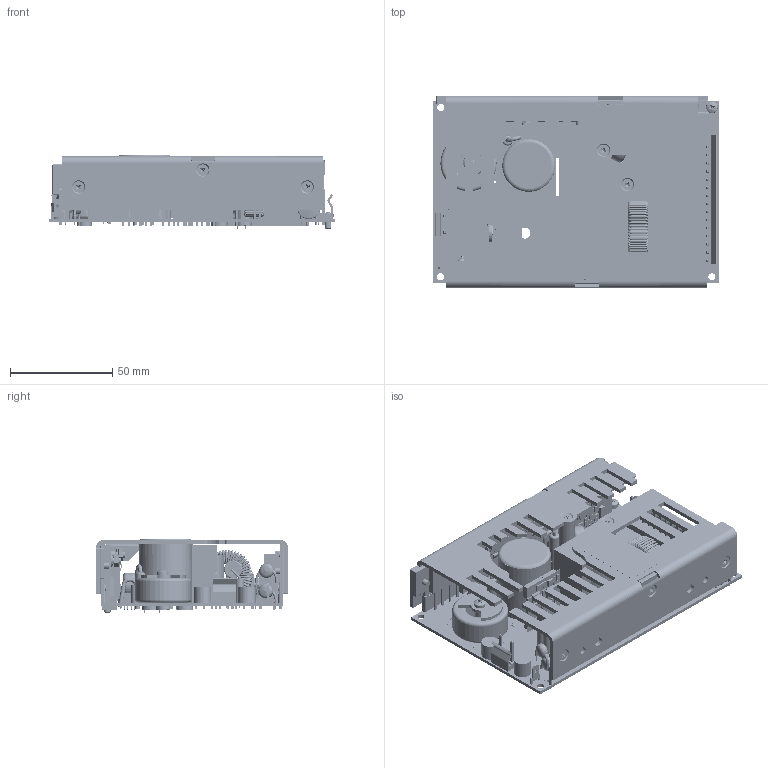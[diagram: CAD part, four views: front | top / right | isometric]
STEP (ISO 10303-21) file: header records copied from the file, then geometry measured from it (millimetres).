
FILE_DESCRIPTION (( 'STEP AP214' ), '1' );
FILE_NAME ('RCL175.STEP', '2018-10-18T16:25:21', ( '' ), ( '' ), 'SwSTEP 2.0', 'SolidWorks 2017', '' );
FILE_SCHEMA (( 'AUTOMOTIVE_DESIGN' ));
Length unit declared in the file: millimetre
Products named in the file (81): TO220_3_lead_uncut_1; L2_TOROID; SCREW-PFH(90)_M3.0x12_6 lg; L9_winding_red; HEADER-SR_2-WAY-SQ-PIN; Bridge_rect_vt_inlineGBU8K; NUT-HEX_M3.0; KoolPad_insulator; Thermistor_Disc_PTO_01_600D x 150T 250x050LS cut 112; SCREW-PFH(90)_M3.0x12_8 lg; CLIP P CL80 002; TAG MK3 LH; TOROID T2_MOUNT; T3_PINNED; L2 NOMEX WASHER; SCREW-PFH(90)_M3.0x12_10 lg; SCREW-PPH_M3.0X30_10 lg; D1; DIN 661 2.0 x 3.0 RIVET; HEATSINK_SPACER; SIL PAD FOR BR1; TO220_2_lead_cut500l_1; CAP-CER-UL1440; SECONDARY_SUBSINK; Cap_disk_450x100_ls300_cut112l; HEATSINK_CLAMP; PPS  INSULATOR; PIN_SPECIAL_9.5; TAG MK3 RH; ppb80 101-1; ppb80 102-1; SECONDARY_SUBSINK_INSERTS; T2_ PINNED; ppb80 100-1; PRIMARY_H-SINK; AL100-030; MET-FILM-S-U; L2 SCREENED ASSY; TOROID T3; SEC_H-SINK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
Assembly tree (206 placements, depth 3):
  HEADER-SR_2-WAY-SQ-PIN
  AL100-030
  SW3dPS-amp_171825_header
  RCL175
    ppb80 100-1
    ppb80 101-1
    SEC_H-SINK
    HEATSINK_CLAMP  x2
    HEATSINK_SPACER  x2
    TO220_3_lead_uncut_1
    TO220_2_lead_cut500l_1
    Cap_disk_450x100_ls300_cut112l
    TO220_3_lead_uncut_1
    TO220_3_lead_uncut_1
    TO220_3_lead_uncut_1
    TO220_3_lead_uncut_1
    TO220_3_lead_uncut_1
    TO220_3_lead_uncut_1
    TO220_3_lead_uncut_1
    TO220_3_lead_uncut_1
    Bridge_rect_vt_inlineGBU8K
    KoolPad_insulator  x2
    CLIP P CL80 002
    SCREW-PFH(90)_M3.0x12  x2
    NUT-HEX_M3.0  x3
    PRIMARY_SUBSINK_INSERTS
      PRIMARY_SUBSINK
      Pem_Nut_Flush_Metric_F-M3-1  x3
      TAG MK3 RH
      TAG MK3 LH
      DIN 661 2.0 x 3.0 RIVET  x2
    PRIMARY_H-SINK
    SECONDARY_SUBSINK_INSERTS
      SECONDARY_SUBSINK
      Pem_Nut_Flush_Metric_F-M3-1  x3
      TAG MK3 RH (MINIMISED)
      TAG MK3 LH
      DIN 661 2.0 x 3.0 RIVET  x2
    L9
      L9_TOROID_FT_TOROID
      L9_winding  x59
      L9_winding_red  x25
    T1
    CLIP INSULATOR
    CLIP SCREW INS.
    M3 SPRING WASHER  x2
    L2 SCREENED ASSY
      L2_TOROID
    L2 NOMEX WASHER
    SCREW-PPH_M3.0X30_10 lg
    CHOKE_CLAMP (L2)
    SIL PAD FOR BR1
    PPB80 102-1
      ppb80 102-1
      CONN PIN  x18
    PPS  INSULATOR
    BAT WASHER
    SW3dPS-16 way 0.1inch pitch molex header
    3 way (I BLANK) 0.156nch pitchheader
    SCREW-PFH(90)_M3.0x12_10 lg
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Bounding box: 139.71 x 93.89 x 36.6 mm (x, y, z)
Volume: 138600.9 mm3; surface area: 147180.7 mm2
Topology: 206 solids, 207 shells, 5100 faces, 12614 edges, 7991 vertices
Faces by surface type: plane 2714, cylinder 1488, torus 744, cone 108, sphere 24, bspline 22
Entity records: 105893 total; most frequent: CARTESIAN_POINT 15478, DIRECTION 14748, ORIENTED_EDGE 14256, EDGE_CURVE 7128, LINE 5562, VECTOR 5562, AXIS2_PLACEMENT_3D 4593, VERTEX_POINT 4555
